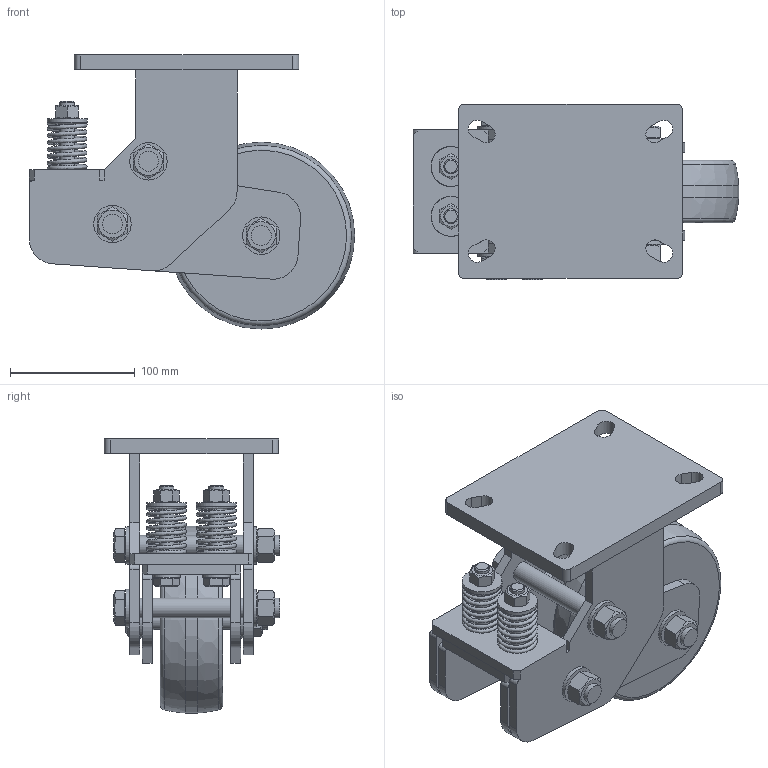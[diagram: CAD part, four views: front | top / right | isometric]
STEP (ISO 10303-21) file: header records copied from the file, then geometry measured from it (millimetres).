
FILE_DESCRIPTION(/* description */ (''),/* implementation_level */ '2;1');
FILE_NAME(/* name */ '45F05_6_F.stp',/* time_stamp */ '2022-10-07T11:29:17+08:00',/* author */ (''),/* organization */ (''),/* preprocessor_version */ 'ST-DEVELOPER v14',/* originating_system */ 'SIEMENS PLM Software NX 8.0',/* authorisation */ '');
FILE_SCHEMA (('AUTOMOTIVE_DESIGN { 1 0 10303 214 3 1 1 1 }'));
Length unit declared in the file: millimetre
Products named in the file (1): 45F05_6_F
Bounding box: 261.1 x 140.95 x 220 mm (x, y, z)
Volume: 1866149.5 mm3; surface area: 329499.5 mm2
Topology: 1 solids, 1 shells, 565 faces, 1422 edges, 926 vertices
Faces by surface type: plane 400, cylinder 103, bspline 26, cone 22, torus 14
Full cylindrical faces by diameter (mm): 12 x4, 13 x4, 16 x7, 16.3 x8, 17 x8, 22 x2, 30 x6, 32 x2, 150 x1
Entity records: 22908 total; most frequent: CARTESIAN_POINT 10352, ORIENTED_EDGE 2616, DIRECTION 2350, EDGE_CURVE 1308, VERTEX_POINT 890, AXIS2_PLACEMENT_3D 860, EDGE_LOOP 734, LINE 630
